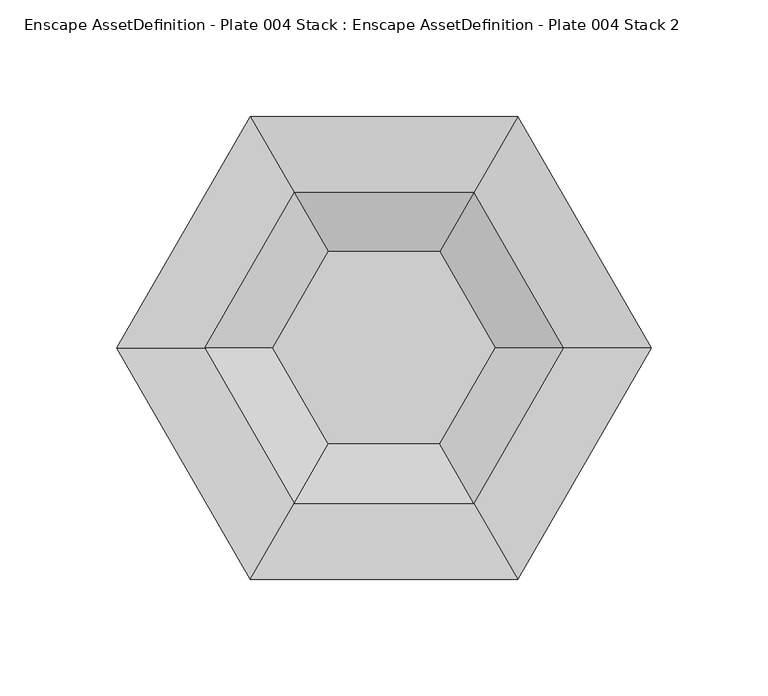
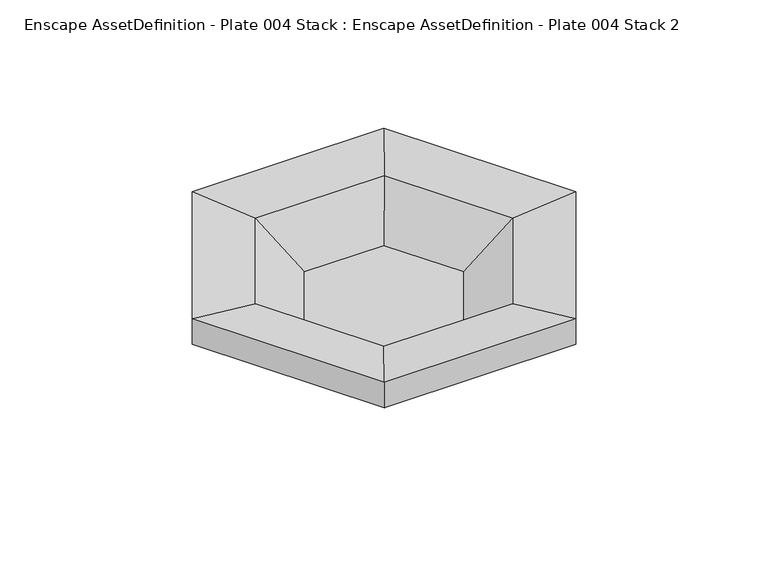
"""IFC4 building model written with IfcOpenShell, lengths in millimetres: geographic element geometry, Enscape AssetDefinition - Plate 004 Stack : Enscape AssetDefinition - Plate 004 Stack 2."""

from ifc_helpers import new_model, si_unit, origin, place, context, project, spatial, triangles, source, transform, mapped, element, save


def enscape_assetdefinition_plate_004_stack_enscape_c0378672(model_context):
    return source(origin(), model_context, "Body", "Tessellation", [
        triangles([(114.3517047, 0.0, 44.9999967), (57.1754163, 99.0318367, 44.9999967), (38.3961438, 66.5040575, 41.3389829), (57.1754163, -99.0318367, 44.9999967), (23.7780249, 41.1849589, 17.8430367), (47.5569173, 0.0, 17.8430367), (76.7914247, 0.0, 41.3389829), (-57.1754163, -99.0318367, 44.9999967), (38.3961438, -66.5040575, 19.7008028), (-57.1754163, -99.0318367, 28.9368511), (57.1754163, -99.0318367, 28.9368511), (114.3517047, 0.0, 28.9368511), (38.3961438, -66.5040575, 41.3389829), (-114.3517047, 0.0, 44.9999967), (-114.3517047, 0.0, 28.9368511), (-76.7914247, 0.0, 19.7008028), (-38.3961438, -66.5040575, 19.7008028), (-57.1754163, 99.0318367, 28.9368511), (57.1754163, 99.0318367, 28.9368511), (-38.3961438, 66.5040575, 19.7008028), (0.0, 0.0, 0.0), (-68.9043607, 0.0, 0.0), (-34.4521803, -59.672634, 0.0), (34.4521803, -59.672634, 0.0), (-34.4521803, 59.672634, 0.0), (76.7914247, 0.0, 19.7008028), (38.3961438, 66.5040575, 19.7008028), (34.4521803, 59.672634, 0.0), (68.9043607, 0.0, 0.0), (-38.3961438, 66.5040575, 41.3389829), (-57.1754163, 99.0318367, 44.9999967), (-23.7780249, 41.1849589, 17.8430367), (-47.5569173, 0.0, 17.8430367), (0.0, 0.0, 17.8430367), (-76.7914247, 0.0, 41.3389829), (-23.7780249, -41.1849589, 17.8430367), (23.7780249, -41.1849589, 17.8430367), (-38.3961438, -66.5040575, 41.3389829)], [[31, 14, 35], [38, 35, 14], [6, 37, 13], [38, 13, 37], [37, 36, 38], [35, 38, 36], [37, 6, 34], [36, 37, 34], [6, 5, 34], [33, 36, 34], [36, 33, 35], [32, 33, 34], [5, 32, 34], [32, 5, 3], [33, 32, 30], [30, 35, 33], [3, 30, 32], [35, 30, 31], [31, 2, 19], [30, 3, 2], [2, 31, 30], [12, 19, 2], [29, 26, 9], [26, 29, 28], [28, 27, 26], [27, 19, 12], [12, 26, 27], [27, 28, 25], [28, 29, 21], [25, 28, 21], [29, 24, 21], [9, 24, 29], [24, 23, 21], [22, 25, 21], [23, 22, 21], [20, 25, 22], [25, 20, 27], [19, 27, 20], [19, 18, 31], [14, 31, 18], [20, 18, 19], [16, 22, 23], [22, 16, 20], [18, 20, 16], [24, 9, 17], [17, 23, 24], [23, 17, 16], [18, 15, 14], [15, 16, 17], [16, 15, 18], [8, 14, 15], [13, 38, 8], [14, 8, 38], [15, 10, 8], [10, 17, 9], [17, 10, 15], [26, 12, 11], [11, 9, 26], [9, 11, 10], [10, 11, 4], [4, 8, 10], [8, 4, 13], [13, 7, 6], [5, 6, 7], [7, 3, 5], [7, 13, 4], [11, 12, 1], [1, 4, 11], [2, 1, 12], [4, 1, 7], [3, 7, 1], [1, 2, 3]]),
    ])


if __name__ == "__main__":
    model = new_model("IFC4")
    model_context = context("Model", 3, world=origin())
    ifc_project = project(units=[si_unit("LENGTHUNIT", "METRE", prefix="MILLI")], contexts=[model_context])
    site = spatial("IfcSite", under=ifc_project)
    building = spatial("IfcBuilding", under=site)
    placement = place(None, origin())
    enscape_assetdefinition_plate_004_stack_enscape_shape = enscape_assetdefinition_plate_004_stack_enscape_c0378672(model_context)
    element("IfcGeographicElement", 1, ObjectType="Enscape AssetDefinition - Plate 004 Stack : Enscape AssetDefinition - Plate 004 Stack 2", at=placement, inside=building, context=model_context, shape_type="MappedRepresentation", body=[
        mapped(enscape_assetdefinition_plate_004_stack_enscape_shape, transform((0.0, 0.0, 0.0), x_axis=(1.0, 0.0, 0.0), y_axis=(0.0, 1.0, 0.0), z_axis=(0.0, 0.0, 1.0))),
    ])
    save(model, "model.ifc")
